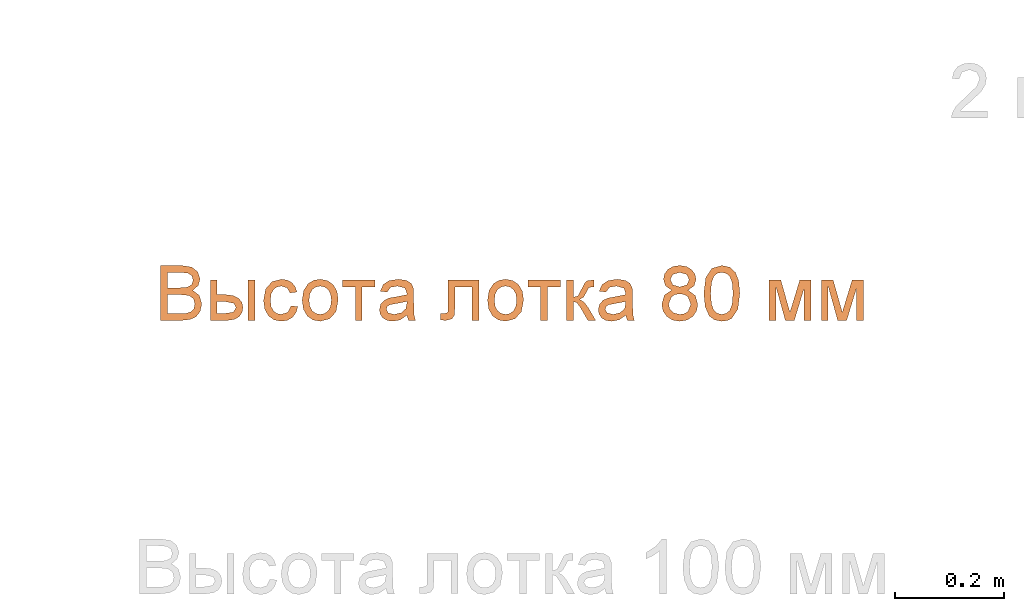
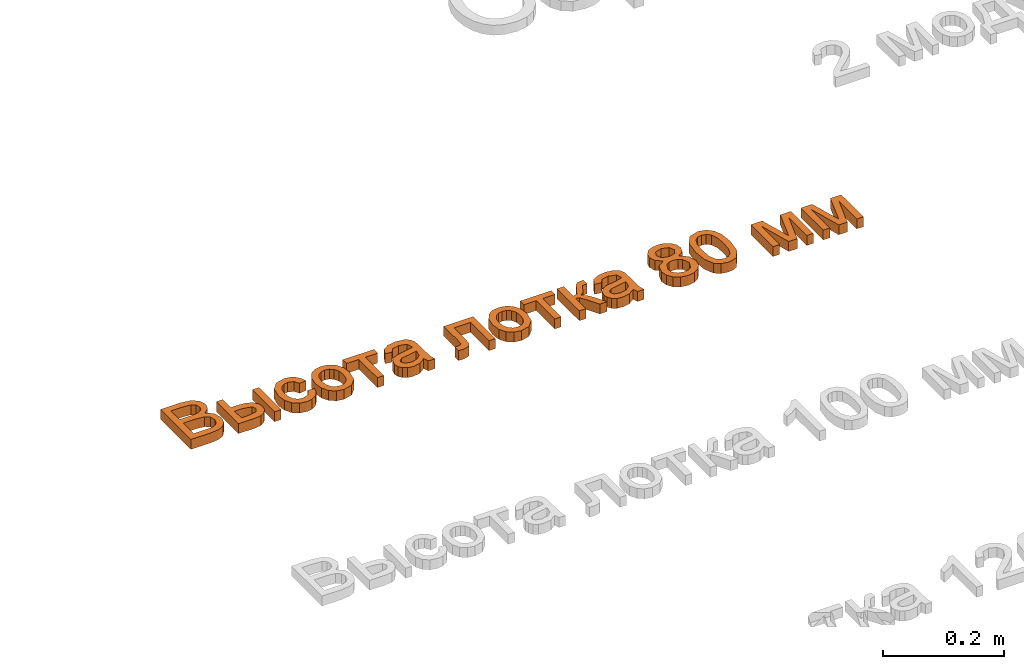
# One storey, part 22 of 71: 1 proxy.
"""IFC2X3 building model written with IfcOpenShell, lengths in millimetres."""

from ifc_helpers import new_model, entity, si_unit, converted_unit, derived_unit, direction, frame, frame_2d, origin, place, context, subcontext, project, spatial, polyline, rectangle, outline, extrude, element, save


model = new_model("IFC2X3")

# Units and contexts
model_context = context("Model", 3, precision=0.01, world=origin(), true_north=direction((6.12303176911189e-17, 1.0)))
body_context = subcontext(model_context, "Body", "Model", "MODEL_VIEW")
ifc_project = project(units=[si_unit("LENGTHUNIT", "METRE", prefix="MILLI"), si_unit("AREAUNIT", "SQUARE_METRE"), si_unit("VOLUMEUNIT", "CUBIC_METRE"), converted_unit("PLANEANGLEUNIT", "DEGREE", entity("IfcRatioMeasure", 0.0174532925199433), si_unit("PLANEANGLEUNIT", "RADIAN"), dimensions=[0, 0, 0, 0, 0, 0, 0]), si_unit("MASSUNIT", "GRAM", prefix="KILO"), derived_unit("MASSDENSITYUNIT", [(si_unit("MASSUNIT", "GRAM", prefix="KILO"), 1), (si_unit("LENGTHUNIT", "METRE"), -3)]), si_unit("TIMEUNIT", "SECOND"), si_unit("FREQUENCYUNIT", "HERTZ"), si_unit("THERMODYNAMICTEMPERATUREUNIT", "DEGREE_CELSIUS"), derived_unit("THERMALTRANSMITTANCEUNIT", [(si_unit("MASSUNIT", "GRAM", prefix="KILO"), 1), (si_unit("THERMODYNAMICTEMPERATUREUNIT", "KELVIN"), -1), (si_unit("TIMEUNIT", "SECOND"), -3)]), derived_unit("VOLUMETRICFLOWRATEUNIT", [(si_unit("LENGTHUNIT", "METRE"), 3), (si_unit("TIMEUNIT", "SECOND"), -1)]), si_unit("ELECTRICCURRENTUNIT", "AMPERE"), si_unit("ELECTRICVOLTAGEUNIT", "VOLT"), si_unit("POWERUNIT", "WATT"), si_unit("FORCEUNIT", "NEWTON", prefix="KILO"), si_unit("ILLUMINANCEUNIT", "LUX"), si_unit("LUMINOUSFLUXUNIT", "LUMEN"), si_unit("LUMINOUSINTENSITYUNIT", "CANDELA"), derived_unit("USERDEFINED", [(si_unit("MASSUNIT", "GRAM", prefix="KILO"), -1), (si_unit("LENGTHUNIT", "METRE"), -2), (si_unit("TIMEUNIT", "SECOND"), 3), (si_unit("LUMINOUSFLUXUNIT", "LUMEN"), 1)]), derived_unit("LINEARVELOCITYUNIT", [(si_unit("LENGTHUNIT", "METRE"), 1), (si_unit("TIMEUNIT", "SECOND"), -1)]), si_unit("PRESSUREUNIT", "PASCAL"), derived_unit("USERDEFINED", [(si_unit("LENGTHUNIT", "METRE"), -2), (si_unit("MASSUNIT", "GRAM", prefix="KILO"), 1), (si_unit("TIMEUNIT", "SECOND"), -2)])], contexts=[model_context])

# Site, building, storey
site_placement = place(None, origin())
site = spatial("IfcSite", under=ifc_project, at=site_placement, Name="Default", CompositionType="ELEMENT")
building_placement = place(site_placement, origin())
building = spatial("IfcBuilding", under=site, at=building_placement, Name="Наименование здания", CompositionType="ELEMENT")
storey_placement = place(building_placement, origin())
storey = spatial("IfcBuildingStorey", under=building, at=storey_placement, Name="Этаж 01", CompositionType="ELEMENT", Elevation=0.0)

# Proxy
proxy_placement = place(storey_placement, origin())
element("IfcBuildingElementProxy", 1, at=proxy_placement, inside=storey, Name="Текст модели:100 мм Arial", ObjectType="Текст модели:100 мм Arial", context=body_context, shape_type="SweptSolid", body=[
    extrude(outline(polyline([(-52.8068326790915, -48.6909338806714), (-14.7678343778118, -48.6909338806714), (1.3331342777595, -46.9618885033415), (12.2592295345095, -41.8605915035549), (19.5800812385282, -32.2466086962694), (22.5353999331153, -18.7453394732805), (18.2066551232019, -3.12261741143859), (5.83355735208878, 6.24611073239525), (16.023888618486, 15.1365922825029), (19.3961402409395, 26.8720279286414), (15.3862264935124, 39.723372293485), (4.30071570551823, 48.810057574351), (-14.47352878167, 51.7653762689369), (-52.8068326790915, 51.7653762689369), (-52.8068326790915, -48.6909338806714)]), holes=[polyline([(-40.2497939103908, 10.9550002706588), (-40.2497939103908, 39.2083375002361), (-19.0597909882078, 39.2083375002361), (-2.92203413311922, 37.8962250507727), (4.31297843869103, 33.0524454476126), (6.83910147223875, 24.8609396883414), (4.12903744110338, 16.6816966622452), (-3.92757825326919, 12.0341207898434), (-17.318482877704, 10.9550002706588), (-40.2497939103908, 10.9550002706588)]), polyline([(-40.2497939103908, -36.1338951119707), (-40.2497939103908, -1.60203849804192), (-15.7243275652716, -1.60203849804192), (-0.211970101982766, -3.2820329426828), (7.57486546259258, -9.1068311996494), (9.9783611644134, -18.8679668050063), (7.93048472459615, -27.3292526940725), (2.70656039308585, -32.9087962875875), (-5.17837703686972, -35.6433857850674), (-14.4980542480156, -36.1338951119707), (-40.2497939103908, -36.1338951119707)])]), frame((5968.33160760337, -11917.8794073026, 0.0)), (0.0, 0.0, 1.0), 20.0),
    extrude(outline(polyline([(-42.39887158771, -34.5139341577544), (31.3737311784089, -34.5139341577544), (31.3737311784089, -3.73447389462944), (29.653882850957, 9.31613988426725), (24.4943378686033, 18.2526066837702), (16.9129030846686, 23.4121516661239), (7.92738535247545, 25.1319999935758), (-1.9410491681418, 23.0810578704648), (-9.42438208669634, 16.9282315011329), (-14.1424686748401, 6.98622058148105), (-15.7151642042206, -6.4322751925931), (-15.7151642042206, -21.9568953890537), (-42.39887158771, -21.9568953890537), (-42.39887158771, -34.5139341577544)]), holes=[polyline([(18.8166924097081, -21.9568953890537), (-3.15812543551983, -21.9568953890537), (-3.15812543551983, -7.41329384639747), (0.226388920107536, 8.88387853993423), (7.95191081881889, 12.5749612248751), (16.1802047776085, 7.59629155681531), (18.8166924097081, -9.05650009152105), (18.8166924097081, -21.9568953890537)])]), frame((6041.07724015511, -11935.1966100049, 0.0), z_axis=(0.0, 0.0, 1.0), x_axis=(0.0, -1.0, 0.0)), (0.0, 0.0, 1.0), 20.0),
    extrude(outline(polyline([(0.267683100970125, -20.7200562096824), (-4.0227824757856, -32.6253015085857), (7.51957889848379, -34.5647704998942), (18.0242916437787, -32.5240986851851), (26.8500141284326, -26.8719753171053), (33.3554047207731, -17.9770896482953), (37.2076783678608, -4.95154901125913), (35.3403176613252, 7.71415747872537), (27.6846262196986, 19.1676933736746), (14.1719076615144, 28.556722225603), (-6.16200624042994, 34.5864889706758), (-23.4110955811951, 30.2307841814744), (-35.1302422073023, 17.0254849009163), (-38.5714296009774, 6.8723113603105), (-38.315669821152, -2.77330902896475), (-34.4593562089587, -11.5597521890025), (-27.0988821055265, -19.1353940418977), (-20.0099089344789, -8.65257858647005), (-25.7552259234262, 0.801697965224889), (-23.9806627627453, 11.2483121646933), (-18.9208808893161, 17.7794646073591), (-11.8538304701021, 21.4126833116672), (-2.81100512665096, 21.531205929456), (8.17610151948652, 17.5182701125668), (18.0468481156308, 10.9639331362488), (23.3470531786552, 3.65828147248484), (24.6053297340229, -4.07586677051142), (22.350290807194, -11.9156934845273), (13.5558525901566, -20.7200562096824), (0.267683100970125, -20.7200562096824)])), frame((6135.7588113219, -11930.2595425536, 0.0), z_axis=(0.0, 0.0, -1.0), x_axis=(-0.45310996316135, -0.891454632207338, 0.0)), (0.0, 0.0, -1.0), 20.0),
    extrude(outline(polyline([(-2.34029740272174, -31.6984909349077), (14.2731811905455, -31.6984909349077), (27.1869525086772, -26.5873672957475), (35.9909592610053, -17.1811275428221), (40.2751441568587, -4.29577920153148), (38.1491713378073, 13.1690451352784), (27.2514955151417, 26.648536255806), (5.67797919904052, 33.7446283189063), (-10.1280544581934, 33.6081083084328), (-22.8059382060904, 28.3900569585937), (-31.6389568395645, 18.9754531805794), (-35.910395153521, 6.2492758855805), (-35.5406401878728, -5.97109031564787), (-30.8535887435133, -16.78352379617), (-19.5870121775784, -26.5692340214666), (-2.34029740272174, -31.6984909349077)]), holes=[polyline([(-0.642949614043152, -19.2566729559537), (-11.6948097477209, -16.2599663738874), (-19.0989004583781, -10.8341828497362), (-22.9822632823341, -3.6735675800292), (-23.4719397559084, 4.52763423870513), (-20.7783225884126, 12.2046648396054), (-15.0781786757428, 18.0357050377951), (-6.56600936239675, 21.286328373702), (4.56368400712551, 21.2221083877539), (15.8675929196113, 18.1905150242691), (23.3961896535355, 12.7474982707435), (27.3267847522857, 5.59272509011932), (27.8366887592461, -2.57413755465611), (25.1317228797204, -10.3331599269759), (19.4311586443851, -16.1672368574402), (10.8134498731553, -19.3753979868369), (-0.642949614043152, -19.2566729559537)])]), frame((6206.2337114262, -11927.6561924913, 0.0), z_axis=(0.0, 0.0, 1.0), x_axis=(0.137105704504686, -0.990556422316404, 0.0)), (0.0, 0.0, 1.0), 20.0),
    extrude(outline(polyline([(-24.7216700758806, -29.8229670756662), (-12.1646313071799, -29.8229670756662), (-12.1646313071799, -6.27851938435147), (49.0509326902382, -6.27851938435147), (49.0509326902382, 6.27851938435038), (-12.1646313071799, 6.27851938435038), (-12.1646313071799, 29.8229670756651), (-24.7216700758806, 29.8229670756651), (-24.7216700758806, -29.8229670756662)])), frame((6278.10926937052, -11917.519408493, 0.0), z_axis=(0.0, 0.0, 1.0), x_axis=(0.0, -1.0, 0.0)), (0.0, 0.0, 1.0), 20.0),
    extrude(outline(polyline([(32.050823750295, 7.8826653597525), (41.9780345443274, 7.8826653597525), (45.9489188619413, 19.7953183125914), (35.1414436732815, 20.7608946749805), (14.2438893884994, 27.0545912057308), (-0.577126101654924, 31.99492970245), (-11.1945882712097, 34.8877809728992), (-20.4974705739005, 33.9299602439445), (-28.5323068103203, 27.5470739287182), (-35.4619652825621, 13.8157249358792), (-38.3044049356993, -2.69989645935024), (-34.9462156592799, -15.3493345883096), (-25.0306383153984, -24.3807697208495), (-19.5706723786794, -12.9644773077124), (-25.7868125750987, -4.50695904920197), (-24.0611841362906, 8.30922519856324), (-16.2279943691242, 20.3304570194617), (-6.33956174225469, 20.6794605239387), (-3.7104020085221, 19.7255176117), (-6.50243004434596, -2.30048133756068), (-8.14662433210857, -13.2049019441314), (-7.01817966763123, -22.8490321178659), (-2.17478658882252, -31.1204151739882), (6.48825595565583, -36.5416029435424), (15.0010331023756, -37.7020395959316), (22.9495879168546, -35.3200906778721), (29.6378522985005, -29.3899394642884), (34.3697581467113, -19.9057692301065), (36.2737661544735, -6.3605554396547), (32.050823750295, 7.8826653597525)]), holes=[polyline([(8.22551784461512, 15.824433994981), (11.5759514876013, 14.6300664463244), (20.1614376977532, 9.67421668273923), (24.4696920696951, -0.396473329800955), (23.302469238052, -13.3987927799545), (17.24919734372, -22.9498553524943), (9.62153186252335, -24.3497471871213), (5.58084684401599, -21.1932043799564), (3.98706417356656, -15.504447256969), (5.47226797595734, -4.61166010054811), (8.22551784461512, 15.824433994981)])]), frame((6348.39502738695, -11929.2391985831, 0.0), z_axis=(0.0, 0.0, 1.0), x_axis=(0.316227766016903, -0.948683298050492, 0.0)), (0.0, 0.0, 1.0), 20.0),
    extrude(outline(polyline([(-49.3689973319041, 12.544776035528), (-49.3689973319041, -43.9618984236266), (24.3300290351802, -43.9618984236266), (24.3300290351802, -31.4048596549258), (-36.8119585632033, -31.4048596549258), (-36.8119585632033, -0.0122627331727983), (-1.61791435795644, -0.0122627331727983), (14.6179443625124, 0.833865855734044), (21.4728122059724, 5.48144172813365), (24.4036054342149, 16.4688506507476), (23.7659433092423, 26.6714446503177), (11.8465666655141, 26.6714446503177), (11.8465666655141, 21.0551128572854), (11.0740144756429, 15.3774673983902), (8.62146784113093, 13.1088617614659), (-2.32915288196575, 12.544776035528), (-49.3689973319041, 12.544776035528)])), frame((6453.89554939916, -11942.1667357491, 0.0), z_axis=(0.0, 0.0, -1.0), x_axis=(0.0, -1.0, 0.0)), (0.0, 0.0, -1.0), 20.0),
    extrude(outline(polyline([(-2.34029740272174, -31.6984909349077), (14.2731811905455, -31.6984909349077), (27.1869525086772, -26.5873672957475), (35.9909592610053, -17.1811275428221), (40.2751441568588, -4.29577920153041), (38.1491713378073, 13.1690451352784), (27.2514955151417, 26.648536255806), (5.67797919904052, 33.7446283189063), (-10.1280544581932, 33.6081083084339), (-22.8059382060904, 28.3900569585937), (-31.6389568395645, 18.9754531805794), (-35.9103951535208, 6.24927588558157), (-35.5406401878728, -5.97109031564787), (-30.8535887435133, -16.78352379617), (-19.5870121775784, -26.5692340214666), (-2.34029740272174, -31.6984909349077)]), holes=[polyline([(-0.642949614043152, -19.2566729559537), (-11.6948097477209, -16.2599663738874), (-19.0989004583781, -10.8341828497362), (-22.9822632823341, -3.6735675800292), (-23.4719397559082, 4.5276342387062), (-20.7783225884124, 12.2046648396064), (-15.0781786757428, 18.0357050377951), (-6.56600936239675, 21.286328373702), (4.56368400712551, 21.2221083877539), (15.8675929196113, 18.1905150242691), (23.3961896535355, 12.7474982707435), (27.3267847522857, 5.59272509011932), (27.8366887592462, -2.57413755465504), (25.1317228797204, -10.3331599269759), (19.4311586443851, -16.1672368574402), (10.8134498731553, -19.3753979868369), (-0.642949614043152, -19.2566729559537)])]), frame((6545.27375818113, -11927.6561924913, 0.0), z_axis=(0.0, 0.0, 1.0), x_axis=(0.137105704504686, -0.990556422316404, 0.0)), (0.0, 0.0, 1.0), 20.0),
    extrude(outline(polyline([(-24.7216700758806, -29.8229670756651), (-12.1646313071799, -29.8229670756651), (-12.1646313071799, -6.27851938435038), (49.0509326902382, -6.27851938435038), (49.0509326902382, 6.27851938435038), (-12.1646313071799, 6.27851938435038), (-12.1646313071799, 29.8229670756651), (-24.7216700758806, 29.8229670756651), (-24.7216700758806, -29.8229670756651)])), frame((6617.14931612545, -11917.519408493, 0.0), z_axis=(0.0, 0.0, 1.0), x_axis=(0.0, -1.0, 0.0)), (0.0, 0.0, 1.0), 20.0),
    extrude(outline(polyline([(-30.3295712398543, -29.5353037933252), (43.4430315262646, -29.5353037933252), (43.4430315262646, -16.9782650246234), (8.91117491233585, -16.9782650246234), (11.2288314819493, -10.2337617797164), (20.8060260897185, -3.61188586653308), (43.4430315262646, 9.55828956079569), (43.4430315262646, 23.8321109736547), (20.3155167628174, 10.3921554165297), (10.0209522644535, 2.61758258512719), (5.1342530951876, -5.30414304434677), (0.756457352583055, 1.79597946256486), (-8.18307513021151, 6.86048826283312), (-16.4481572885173, 11.1769703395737), (-17.7725324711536, 17.3083369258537), (-17.6989560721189, 20.69285128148), (-30.3295712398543, 20.69285128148), (-30.3295712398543, 18.2893555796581), (-29.3730780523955, 9.10456843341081), (-25.6819953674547, 4.05232236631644), (-14.3389671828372, -1.67437402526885), (-1.1933172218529, -8.56603006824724), (1.06302568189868, -16.9782650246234), (-30.3295712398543, -16.9782650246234), (-30.3295712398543, -29.5353037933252)])), frame((6687.49499591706, -11923.127309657, 0.0), z_axis=(0.0, 0.0, 1.0), x_axis=(0.0, -1.0, 0.0)), (0.0, 0.0, 1.0), 20.0),
    extrude(rectangle(XDim=73.7726027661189, YDim=12.5570387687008, at=frame_2d((-1.08357767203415e-12, 0.0), x_axis=(1.0, 0.0))), frame((6081.90553860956, -11929.6840398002, 0.0), z_axis=(0.0, 0.0, 1.0), x_axis=(0.0, -1.0, 0.0)), (0.0, 0.0, 1.0), 20.0),
    extrude(outline(polyline([(32.050823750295, 7.8826653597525), (41.9780345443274, 7.8826653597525), (45.9489188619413, 19.7953183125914), (35.1414436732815, 20.7608946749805), (14.2438893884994, 27.0545912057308), (-0.577126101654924, 31.99492970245), (-11.1945882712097, 34.8877809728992), (-20.4974705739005, 33.9299602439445), (-28.5323068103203, 27.5470739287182), (-35.4619652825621, 13.8157249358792), (-38.304404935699, -2.69989645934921), (-34.9462156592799, -15.3493345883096), (-25.0306383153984, -24.3807697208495), (-19.5706723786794, -12.9644773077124), (-25.7868125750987, -4.50695904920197), (-24.0611841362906, 8.30922519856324), (-16.2279943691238, 20.3304570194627), (-6.33956174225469, 20.6794605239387), (-3.7104020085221, 19.7255176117), (-6.50243004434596, -2.30048133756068), (-8.14662433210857, -13.2049019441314), (-7.01817966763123, -22.8490321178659), (-2.17478658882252, -31.1204151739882), (6.48825595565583, -36.5416029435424), (15.0010331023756, -37.7020395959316), (22.9495879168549, -35.3200906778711), (29.6378522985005, -29.3899394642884), (34.3697581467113, -19.9057692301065), (36.2737661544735, -6.3605554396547), (32.050823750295, 7.8826653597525)]), holes=[polyline([(8.22551784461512, 15.824433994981), (11.5759514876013, 14.6300664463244), (20.1614376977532, 9.67421668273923), (24.4696920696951, -0.396473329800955), (23.302469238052, -13.3987927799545), (17.24919734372, -22.9498553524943), (9.62153186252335, -24.3497471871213), (5.58084684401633, -21.1932043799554), (3.9870641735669, -15.504447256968), (5.47226797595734, -4.61166010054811), (8.22551784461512, 15.824433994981)])]), frame((6748.6506381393, -11929.2391985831, 0.0), z_axis=(0.0, 0.0, 1.0), x_axis=(0.316227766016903, -0.948683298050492, 0.0)), (0.0, 0.0, 1.0), 20.0),
    extrude(outline(polyline([(10.1224324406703, -11.2212127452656), (26.4477736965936, -11.2212127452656), (39.6861381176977, -0.0909413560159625), (44.6322314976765, 11.3078156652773), (44.5856416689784, 23.4168603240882), (39.607383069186, 34.8346290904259), (29.7584701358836, 44.1595584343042), (17.4236057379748, 49.7956565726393), (4.98749274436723, 50.1469317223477), (-6.20047708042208, 45.7236060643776), (-14.7909119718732, 37.0359017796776), (-20.0781666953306, 21.005684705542), (-14.5070621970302, 5.37692494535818), (-28.0684052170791, 5.15563707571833), (-37.7221714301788, -2.6084501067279), (-41.523636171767, -11.9357006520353), (-41.0036870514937, -22.2232653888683), (-36.1916154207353, -32.187077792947), (-27.1167126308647, -40.5430713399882), (-16.0503295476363, -45.8123091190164), (-5.18246445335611, -46.5706787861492), (4.38453303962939, -43.2361071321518), (11.5483133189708, -36.2265209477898), (15.2516244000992, -24.0826582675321), (10.1224324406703, -11.2212127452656)]), holes=[polyline([(1.34077476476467, -28.9039041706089), (-7.53771017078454, -33.9815875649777), (-20.2415350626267, -30.0339976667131), (-28.5905650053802, -19.6902819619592), (-26.9800933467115, -9.1378791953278), (-18.1108932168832, -3.87648928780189), (-5.45128168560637, -7.82385811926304), (3.15927028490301, -18.2403048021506), (1.34077476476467, -28.9039041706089)]), polyline([(29.0262968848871, 6.56051660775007), (17.1806533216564, -1.51571690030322), (9.68494123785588, -1.27757268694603), (1.95268767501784, 2.32885586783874), (-4.46267094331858, 8.2788688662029), (-7.64161156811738, 15.3010558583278), (-4.59707955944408, 29.6929468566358), (7.31333657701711, 37.7994665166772), (14.836737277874, 37.4872096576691), (22.6595729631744, 33.801252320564), (30.3730358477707, 25.5864099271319), (32.5711030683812, 15.5727469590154), (29.0262968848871, 6.56051660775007)])]), frame((6865.14980991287, -11914.8893077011, 0.0), z_axis=(0.0, 0.0, 1.0), x_axis=(-0.829266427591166, -0.558853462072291, 0.0)), (0.0, 0.0, 1.0), 20.0),
    extrude(outline(polyline([(-7.02884310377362, -33.3490673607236), (17.5323805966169, -33.3490673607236), (35.1984171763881, -27.6137612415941), (43.3439841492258, -18.4876517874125), (47.0516941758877, -5.75150665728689), (46.7162020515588, 4.48638208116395), (43.4465778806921, 13.0955287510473), (27.9444305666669, 25.6659118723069), (-0.314338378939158, 32.2325535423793), (-24.0296505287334, 32.3678288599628), (-39.414302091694, 28.0260881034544), (-49.7293680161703, 18.9002174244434), (-54.4436715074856, 4.63998875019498), (-50.867658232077, -14.130105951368), (-35.4058547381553, -26.7333390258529), (-7.02884310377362, -33.3490673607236)]), holes=[polyline([(-5.7742877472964, -20.8548320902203), (-25.0157644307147, -17.3562860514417), (-36.7257089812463, -11.5717922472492), (-41.0962588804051, -4.77599682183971), (-41.96692192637, 3.21464792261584), (-39.2244253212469, 11.2791292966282), (-32.8654063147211, 17.2229259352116), (-20.969837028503, 20.2947501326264), (-1.61768958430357, 19.7433141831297), (17.8514140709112, 16.2707701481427), (28.7803640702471, 10.7141596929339), (33.5546988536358, 3.61815959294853), (34.5599568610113, -4.47255337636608), (31.9421230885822, -12.1923199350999), (25.8471825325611, -18.1754808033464), (14.0250679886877, -21.4027476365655), (-5.7742877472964, -20.8548320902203)])]), frame((6942.99200506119, -11920.747164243, 0.0), z_axis=(0.0, 0.0, 1.0), x_axis=(0.101851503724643, -0.994799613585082, 0.0)), (0.0, 0.0, 1.0), 20.0),
    extrude(outline(polyline([(-40.5839870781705, -38.4502715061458), (33.1886156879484, -38.4502715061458), (33.1886156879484, -25.893232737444), (-29.0570178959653, -25.893232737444), (33.1886156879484, -8.62730443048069), (33.1886156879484, 7.85380895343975), (-26.2120637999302, 25.904552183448), (33.1886156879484, 25.904552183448), (33.1886156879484, 38.4615909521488), (-40.5839870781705, 38.4615909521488), (-40.5839870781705, 17.7620973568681), (18.4733358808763, -0.190544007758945), (-40.5839870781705, -16.8433356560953), (-40.5839870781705, -38.4502715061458)])), frame((7066.84260730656, -11933.3817254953, 0.0), z_axis=(0.0, 0.0, 1.0), x_axis=(0.0, -1.0, 0.0)), (0.0, 0.0, 1.0), 20.0),
    extrude(outline(polyline([(-40.5839870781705, -38.4502715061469), (33.1886156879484, -38.4502715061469), (33.1886156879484, -25.8932327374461), (-29.0570178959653, -25.8932327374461), (33.1886156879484, -8.62730443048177), (33.1886156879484, 7.85380895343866), (-26.2120637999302, 25.9045521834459), (33.1886156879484, 25.9045521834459), (33.1886156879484, 38.4615909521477), (-40.5839870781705, 38.4615909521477), (-40.5839870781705, 17.762097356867), (18.4733358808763, -0.190544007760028), (-40.5839870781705, -16.8433356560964), (-40.5839870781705, -38.4502715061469)])), frame((7162.59002791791, -11933.3817254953, 0.0), z_axis=(0.0, 0.0, 1.0), x_axis=(0.0, -1.0, 0.0)), (0.0, 0.0, 1.0), 20.0),
])

save(model, "model.ifc")
